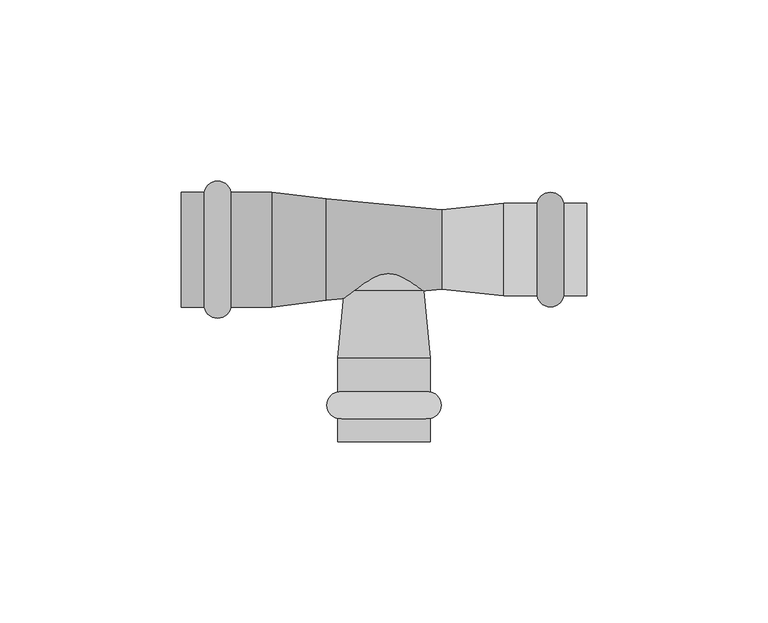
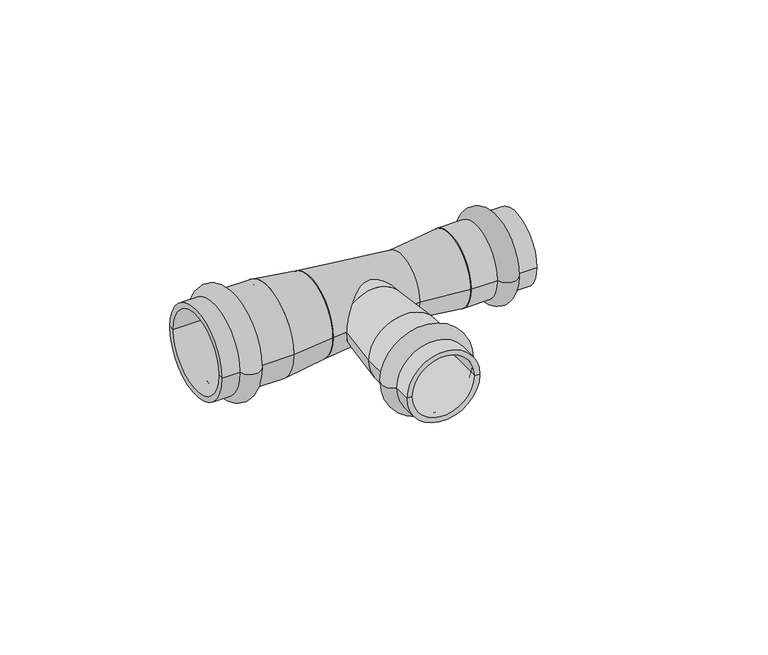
"""IFC4 building model written with IfcOpenShell, lengths in millimetres: pipe fitting geometry, VALTEC_VTi.931.I_Тройник_Ннержавеющая сталь : VTi.931.I."""

from ifc_helpers import new_model, si_unit, point, frame, origin, origin_2d, place, context, project, spatial, polyline, circle_curve, ellipse_curve, trimmed, segment, composite_curve, outline, extrude, source, transform, mapped, element, save
from ifc_brep_helpers import plane_surface, cylinder_surface, revolved_surface, advanced_brep


def pipe_fitting_aab85788(model_context):
    return source(origin(), model_context, "Body", "SolidModel", [
        advanced_brep(
        [(12.8, -46.6242346, 0.0), (-12.8, -46.6242346, 0.0), (-12.8, -39.2757654, 0.0), (12.8, -39.2757654, 0.0), (12.8, -53.0, 0.0), (-12.8, -53.0, 0.0), (11.0, -53.0, 0.0), (-11.0, -53.0, 0.0), (11.0, -30.0, 0.0), (-11.0, -30.0, 0.0), (12.8, -30.0, 0.0), (-12.8, -30.0, 0.0)],
        [
            (0, 1, circle_curve(frame((0.0, -46.6242346, 0.0), z_axis=(0.0, 1.0, 0.0), x_axis=(-1.0, 0.0, 0.0)), 12.8)),
            (1, 2, circle_curve(frame((-12.05, -42.95, 0.0), z_axis=(0.0, 0.0, -1.0), x_axis=(0.0, 1.0, 0.0)), 3.75)),
            (2, 3, circle_curve(frame((0.0, -39.2757654, 0.0), z_axis=(0.0, -1.0, 0.0), x_axis=(-1.0, 0.0, 0.0)), 12.8)),
            (3, 0, circle_curve(frame((12.05, -42.95, 0.0), z_axis=(0.0, 0.0, -1.0), x_axis=(0.0, 1.0, 0.0)), 3.75)),
            (1, 0, circle_curve(frame((0.0, -46.6242346, 0.0), z_axis=(0.0, 1.0, 0.0), x_axis=(-1.0, 0.0, 0.0)), 12.8)),
            (3, 2, circle_curve(frame((0.0, -39.2757654, 0.0), z_axis=(0.0, -1.0, 0.0), x_axis=(-1.0, 0.0, 0.0)), 12.8)),
            (4, 5, circle_curve(frame((0.0, -53.0, 0.0), z_axis=(0.0, 1.0, 0.0), x_axis=(-1.0, 0.0, 0.0)), 12.8)),
            (5, 1),
            (0, 4),
            (5, 4, circle_curve(frame((0.0, -53.0, 0.0), z_axis=(0.0, 1.0, 0.0), x_axis=(-1.0, 0.0, 0.0)), 12.8)),
            (6, 7, circle_curve(frame((0.0, -53.0, 0.0), z_axis=(0.0, 1.0, 0.0), x_axis=(-1.0, 0.0, 0.0)), 11.0)),
            (7, 5),
            (4, 6),
            (7, 6, circle_curve(frame((0.0, -53.0, 0.0), z_axis=(0.0, 1.0, 0.0), x_axis=(-1.0, 0.0, 0.0)), 11.0)),
            (8, 9, circle_curve(frame((0.0, -30.0, 0.0), z_axis=(0.0, 1.0, 0.0), x_axis=(-1.0, 0.0, 0.0)), 11.0)),
            (9, 7),
            (6, 8),
            (9, 8, circle_curve(frame((0.0, -30.0, 0.0), z_axis=(0.0, 1.0, 0.0), x_axis=(-1.0, 0.0, 0.0)), 11.0)),
            (10, 11, circle_curve(frame((0.0, -30.0, 0.0), z_axis=(0.0, 1.0, 0.0), x_axis=(-1.0, 0.0, 0.0)), 12.8)),
            (11, 9),
            (8, 10),
            (11, 10, circle_curve(frame((0.0, -30.0, 0.0), z_axis=(0.0, 1.0, 0.0), x_axis=(-1.0, 0.0, 0.0)), 12.8)),
            (2, 11),
            (10, 3),
        ],
        [
            revolved_surface(trimmed(ellipse_curve(frame((-12.05, -42.95, 0.0), z_axis=(0.0, 0.0, 1.0), x_axis=(0.0, 1.0, 0.0)), 3.75, 3.75), [point((-12.8, -39.2757654, 0.0))], [point((-12.8, -46.6242346, 0.0))], True, "CARTESIAN"), (0.0, -56.5364426, 0.0), (0.0, -1.0, 0.0)),
            cylinder_surface(frame((0.0, -56.5364426, 0.0), z_axis=(0.0, -1.0, 0.0), x_axis=(-1.0, 0.0, 0.0)), 12.8),
            plane_surface(frame((0.0, -53.0, 0.0), z_axis=(0.0, -1.0, 0.0), x_axis=(-1.0, 0.0, 0.0))),
            revolved_surface(polyline([(-11.0, -53.0, 0.0), (-11.0, -30.0, 0.0)]), (0.0, -56.5364426, 0.0), (0.0, -1.0, 0.0)),
            plane_surface(frame((0.0, -30.0, 0.0), z_axis=(0.0, 1.0, 0.0), x_axis=(-1.0, 0.0, 0.0))),
        ],
        [
            (0, [[1, 2, 3, 4]]),
            (0, [[5, -4, 6, -2]]),
            (1, [[7, 8, -1, 9]]),
            (1, [[10, -9, -5, -8]]),
            (2, [[11, 12, -7, 13]]),
            (2, [[14, -13, -10, -12]]),
            (3, [[15, 16, -11, 17]]),
            (3, [[18, -17, -14, -16]]),
            (4, [[19, 20, -15, 21]]),
            (4, [[22, -21, -18, -20]]),
            (1, [[-3, 23, -19, 24]]),
            (1, [[-6, -24, -22, -23]]),
        ],
    ),
        advanced_brep(
        [(49.6242346, 12.8, 0.0), (49.6242346, -12.8, 0.0), (42.2757654, -12.8, 0.0), (42.2757654, 12.8, 0.0), (56.0, 12.8, 0.0), (56.0, -12.8, 0.0), (56.0, 11.0, 0.0), (56.0, -11.0, 0.0), (33.0, 11.0, 0.0), (33.0, -11.0, 0.0), (33.0, 12.8, 0.0), (33.0, -12.8, 0.0)],
        [
            (0, 1, circle_curve(frame((49.6242346, 0.0, 0.0), z_axis=(-1.0, 0.0, 0.0), x_axis=(0.0, -1.0, 0.0)), 12.8)),
            (1, 2, circle_curve(frame((45.95, -12.05, 0.0), z_axis=(0.0, 0.0, -1.0), x_axis=(-1.0, 0.0, 0.0)), 3.75)),
            (2, 3, circle_curve(frame((42.2757654, 0.0, 0.0), z_axis=(1.0, 0.0, 0.0), x_axis=(0.0, -1.0, 0.0)), 12.8)),
            (3, 0, circle_curve(frame((45.95, 12.05, 0.0), z_axis=(0.0, 0.0, -1.0), x_axis=(-1.0, 0.0, 0.0)), 3.75)),
            (1, 0, circle_curve(frame((49.6242346, 0.0, 0.0), z_axis=(-1.0, 0.0, 0.0), x_axis=(0.0, -1.0, 0.0)), 12.8)),
            (3, 2, circle_curve(frame((42.2757654, 0.0, 0.0), z_axis=(1.0, 0.0, 0.0), x_axis=(0.0, -1.0, 0.0)), 12.8)),
            (4, 5, circle_curve(frame((56.0, 0.0, 0.0), z_axis=(-1.0, 0.0, 0.0), x_axis=(0.0, -1.0, 0.0)), 12.8)),
            (5, 1),
            (0, 4),
            (5, 4, circle_curve(frame((56.0, 0.0, 0.0), z_axis=(-1.0, 0.0, 0.0), x_axis=(0.0, -1.0, 0.0)), 12.8)),
            (6, 7, circle_curve(frame((56.0, 0.0, 0.0), z_axis=(-1.0, 0.0, 0.0), x_axis=(0.0, -1.0, 0.0)), 11.0)),
            (7, 5),
            (4, 6),
            (7, 6, circle_curve(frame((56.0, 0.0, 0.0), z_axis=(-1.0, 0.0, 0.0), x_axis=(0.0, -1.0, 0.0)), 11.0)),
            (8, 9, circle_curve(frame((33.0, 0.0, 0.0), z_axis=(-1.0, 0.0, 0.0), x_axis=(0.0, -1.0, 0.0)), 11.0)),
            (9, 7),
            (6, 8),
            (9, 8, circle_curve(frame((33.0, 0.0, 0.0), z_axis=(-1.0, 0.0, 0.0), x_axis=(0.0, -1.0, 0.0)), 11.0)),
            (10, 11, circle_curve(frame((33.0, 0.0, 0.0), z_axis=(-1.0, 0.0, 0.0), x_axis=(0.0, -1.0, 0.0)), 12.8)),
            (11, 9),
            (8, 10),
            (11, 10, circle_curve(frame((33.0, 0.0, 0.0), z_axis=(-1.0, 0.0, 0.0), x_axis=(0.0, -1.0, 0.0)), 12.8)),
            (2, 11),
            (10, 3),
        ],
        [
            revolved_surface(trimmed(ellipse_curve(frame((45.95, -12.05, 0.0), z_axis=(0.0, 0.0, 1.0), x_axis=(-1.0, 0.0, 0.0)), 3.75, 3.75), [point((42.2757654, -12.8, 0.0))], [point((49.6242346, -12.8, 0.0))], True, "CARTESIAN"), (59.5364426, 0.0, 0.0), (1.0, 0.0, 0.0)),
            cylinder_surface(frame((59.5364426, 0.0, 0.0), z_axis=(1.0, 0.0, 0.0), x_axis=(0.0, -1.0, 0.0)), 12.8),
            plane_surface(frame((56.0, 0.0, 0.0), z_axis=(1.0, 0.0, 0.0), x_axis=(0.0, -1.0, 0.0))),
            revolved_surface(polyline([(56.0, -11.0, 0.0), (33.0, -11.0, 0.0)]), (59.5364426, 0.0, 0.0), (1.0, 0.0, 0.0)),
            plane_surface(frame((33.0, 0.0, 0.0), z_axis=(-1.0, 0.0, 0.0), x_axis=(0.0, -1.0, 0.0))),
        ],
        [
            (0, [[1, 2, 3, 4]]),
            (0, [[5, -4, 6, -2]]),
            (1, [[7, 8, -1, 9]]),
            (1, [[10, -9, -5, -8]]),
            (2, [[11, 12, -7, 13]]),
            (2, [[14, -13, -10, -12]]),
            (3, [[15, 16, -11, 17]]),
            (3, [[18, -17, -14, -16]]),
            (4, [[19, 20, -15, 21]]),
            (4, [[22, -21, -18, -20]]),
            (1, [[-3, 23, -19, 24]]),
            (1, [[-6, -24, -22, -23]]),
        ],
    ),
        advanced_brep(
        [(-49.6242346, -15.9, 0.0), (-49.6242346, 15.9, 0.0), (-42.2757654, 15.9, 0.0), (-42.2757654, -15.9, 0.0), (-56.0, -15.9, 0.0), (-56.0, 15.9, 0.0), (-56.0, -14.0, 0.0), (-56.0, 14.0, 0.0), (-31.0, -14.0, 0.0), (-31.0, 14.0, 0.0), (-31.0, -15.9, 0.0), (-31.0, 15.9, 0.0)],
        [
            (0, 1, circle_curve(frame((-49.6242346, 0.0, 0.0), z_axis=(1.0, 0.0, 0.0), x_axis=(0.0, 1.0, 0.0)), 15.9)),
            (1, 2, circle_curve(frame((-45.95, 15.15, 0.0), z_axis=(0.0, 0.0, -1.0), x_axis=(1.0, 0.0, 0.0)), 3.75)),
            (2, 3, circle_curve(frame((-42.2757654, 0.0, 0.0), z_axis=(-1.0, 0.0, 0.0), x_axis=(0.0, 1.0, 0.0)), 15.9)),
            (3, 0, circle_curve(frame((-45.95, -15.15, 0.0), z_axis=(0.0, 0.0, -1.0), x_axis=(1.0, 0.0, 0.0)), 3.75)),
            (1, 0, circle_curve(frame((-49.6242346, 0.0, 0.0), z_axis=(1.0, 0.0, 0.0), x_axis=(0.0, 1.0, 0.0)), 15.9)),
            (3, 2, circle_curve(frame((-42.2757654, 0.0, 0.0), z_axis=(-1.0, 0.0, 0.0), x_axis=(0.0, 1.0, 0.0)), 15.9)),
            (4, 5, circle_curve(frame((-56.0, 0.0, 0.0), z_axis=(1.0, 0.0, 0.0), x_axis=(0.0, 1.0, 0.0)), 15.9)),
            (5, 1),
            (0, 4),
            (5, 4, circle_curve(frame((-56.0, 0.0, 0.0), z_axis=(1.0, 0.0, 0.0), x_axis=(0.0, 1.0, 0.0)), 15.9)),
            (6, 7, circle_curve(frame((-56.0, 0.0, 0.0), z_axis=(1.0, 0.0, 0.0), x_axis=(0.0, 1.0, 0.0)), 14.0)),
            (7, 5),
            (4, 6),
            (7, 6, circle_curve(frame((-56.0, 0.0, 0.0), z_axis=(1.0, 0.0, 0.0), x_axis=(0.0, 1.0, 0.0)), 14.0)),
            (8, 9, circle_curve(frame((-31.0, 0.0, 0.0), z_axis=(1.0, 0.0, 0.0), x_axis=(0.0, 1.0, 0.0)), 14.0)),
            (9, 7),
            (6, 8),
            (9, 8, circle_curve(frame((-31.0, 0.0, 0.0), z_axis=(1.0, 0.0, 0.0), x_axis=(0.0, 1.0, 0.0)), 14.0)),
            (10, 11, circle_curve(frame((-31.0, 0.0, 0.0), z_axis=(1.0, 0.0, 0.0), x_axis=(0.0, 1.0, 0.0)), 15.9)),
            (11, 9),
            (8, 10),
            (11, 10, circle_curve(frame((-31.0, 0.0, 0.0), z_axis=(1.0, 0.0, 0.0), x_axis=(0.0, 1.0, 0.0)), 15.9)),
            (2, 11),
            (10, 3),
        ],
        [
            revolved_surface(trimmed(ellipse_curve(frame((-45.95, 15.15, 0.0), z_axis=(0.0, 0.0, 1.0), x_axis=(1.0, 0.0, 0.0)), 3.75, 3.75), [point((-42.2757654, 15.9, 0.0))], [point((-49.6242346, 15.9, 0.0))], True, "CARTESIAN"), (-59.5364426, 0.0, 0.0), (-1.0, 0.0, 0.0)),
            cylinder_surface(frame((-59.5364426, 0.0, 0.0), z_axis=(-1.0, 0.0, 0.0), x_axis=(0.0, 1.0, 0.0)), 15.9),
            plane_surface(frame((-56.0, 0.0, 0.0), z_axis=(-1.0, 0.0, 0.0), x_axis=(0.0, 1.0, 0.0))),
            revolved_surface(polyline([(-56.0, 14.0, 0.0), (-31.0, 14.0, 0.0)]), (-59.5364426, 0.0, 0.0), (-1.0, 0.0, 0.0)),
            plane_surface(frame((-31.0, 0.0, 0.0), z_axis=(1.0, 0.0, 0.0), x_axis=(0.0, 1.0, 0.0))),
        ],
        [
            (0, [[1, 2, 3, 4]]),
            (0, [[5, -4, 6, -2]]),
            (1, [[7, 8, -1, 9]]),
            (1, [[10, -9, -5, -8]]),
            (2, [[11, 12, -7, 13]]),
            (2, [[14, -13, -10, -12]]),
            (3, [[15, 16, -11, 17]]),
            (3, [[18, -17, -14, -16]]),
            (4, [[19, 20, -15, 21]]),
            (4, [[22, -21, -18, -20]]),
            (1, [[-3, 23, -19, 24]]),
            (1, [[-6, -24, -22, -23]]),
        ],
    ),
        advanced_brep(
        [(16.0, -11.0, 0.0), (16.0, 11.0, 0.0), (-16.0, -14.0, 0.0), (-16.0, 14.0, 0.0)],
        [
            (0, 1, circle_curve(frame((16.0, 0.0, 0.0), z_axis=(1.0, 0.0, 0.0), x_axis=(0.0, -1.0, 0.0)), 11.0)),
            (1, 0, circle_curve(frame((16.0, 0.0, 0.0), z_axis=(1.0, 0.0, 0.0), x_axis=(0.0, 1.0, 0.0)), 11.0)),
            (2, 3, circle_curve(frame((-16.0, 0.0, 0.0), z_axis=(-1.0, 0.0, 0.0), x_axis=(0.0, 1.0, 0.0)), 14.0)),
            (3, 2, circle_curve(frame((-16.0, 0.0, 0.0), z_axis=(-1.0, 0.0, 0.0), x_axis=(0.0, -1.0, 0.0)), 14.0)),
            (3, 1),
            (0, 2),
        ],
        [
            plane_surface(frame((16.0, 0.0, 0.0), z_axis=(1.0, 0.0, 0.0), x_axis=(0.0, 0.0, -1.0))),
            plane_surface(frame((-16.0, 0.0, 0.0), z_axis=(-1.0, 0.0, 0.0), x_axis=(0.0, 0.0, -1.0))),
            revolved_surface(polyline([(16.0, -10.999999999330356, 0.0), (-16.0, -14.0, 0.0)]), (133.3333333, 0.0, 0.0), (-1.0, 0.0, 0.0)),
            revolved_surface(polyline([(16.0, 10.999999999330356, 0.0), (-16.0, 14.0, 0.0)]), (133.3333333, 0.0, 0.0), (-1.0, 0.0, 0.0)),
        ],
        [
            (0, [[1, 2]]),
            (1, [[3, 4]]),
            (2, [[-4, 5, -1, 6]]),
            (3, [[-3, -6, -2, -5]]),
        ],
    ),
        advanced_brep(
        [(-12.8, -30.0, 0.0), (12.8, -30.0, 0.0), (-11.0, -11.3209826, 0.0), (11.0, -11.3209826, 0.0)],
        [
            (0, 1, circle_curve(frame((0.0, -30.0, 0.0), z_axis=(0.0, -1.0, 0.0), x_axis=(-1.0, 0.0, 0.0)), 12.8)),
            (1, 0, circle_curve(frame((0.0, -30.0, 0.0), z_axis=(0.0, -1.0, 0.0), x_axis=(1.0, 0.0, 0.0)), 12.8)),
            (2, 3, circle_curve(frame((0.0, -11.3209826, 0.0), z_axis=(0.0, 1.0, 0.0), x_axis=(1.0, 0.0, 0.0)), 11.0)),
            (3, 2, circle_curve(frame((0.0, -11.3209826, 0.0), z_axis=(0.0, 1.0, 0.0), x_axis=(-1.0, 0.0, 0.0)), 11.0)),
            (3, 1),
            (0, 2),
        ],
        [
            plane_surface(frame((0.0, -30.0, 0.0), z_axis=(0.0, -1.0, 0.0), x_axis=(0.0, 0.0, 1.0))),
            plane_surface(frame((0.0, -11.3209826, 0.0), z_axis=(0.0, 1.0, 0.0), x_axis=(0.0, 0.0, 1.0))),
            revolved_surface(polyline([(11.000000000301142, -11.320982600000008, 0.0), (12.8, -30.0, 0.0)]), (0.0, 102.8285682, 0.0), (0.0, -1.0, 0.0)),
            revolved_surface(polyline([(-11.000000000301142, -11.320982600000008, 0.0), (-12.8, -30.0, 0.0)]), (0.0, 102.8285682, 0.0), (0.0, -1.0, 0.0)),
        ],
        [
            (0, [[1, 2]]),
            (1, [[3, 4]]),
            (2, [[-4, 5, -1, 6]]),
            (3, [[-3, -6, -2, -5]]),
        ],
    ),
        extrude(outline(composite_curve([segment(trimmed(circle_curve(origin_2d(), 11.0), [point((0.0, -11.0))], [point((0.0, 11.0))], False, "CARTESIAN"), True, "CONTINUOUS"), segment(trimmed(circle_curve(origin_2d(), 11.0), [point((0.0, 11.0))], [point((0.0, -11.0))], False, "CARTESIAN"), True, "CONTINUOUS")], self_intersect=False)), frame((0.0, -11.3209826, 0.0), z_axis=(0.0, 1.0, 0.0), x_axis=(0.0, 0.0, 1.0)), (0.0, 0.0, 1.0), 11.3209826),
        advanced_brep(
        [(33.0, -12.8, 0.0), (33.0, 12.8, 0.0), (16.0, -11.0, 0.0), (16.0, 11.0, 0.0)],
        [
            (0, 1, circle_curve(frame((33.0, 0.0, 0.0), z_axis=(1.0, 0.0, 0.0), x_axis=(0.0, -1.0, 0.0)), 12.8)),
            (1, 0, circle_curve(frame((33.0, 0.0, 0.0), z_axis=(1.0, 0.0, 0.0), x_axis=(0.0, 1.0, 0.0)), 12.8)),
            (2, 3, circle_curve(frame((16.0, 0.0, 0.0), z_axis=(-1.0, 0.0, 0.0), x_axis=(0.0, 1.0, 0.0)), 11.0)),
            (3, 2, circle_curve(frame((16.0, 0.0, 0.0), z_axis=(-1.0, 0.0, 0.0), x_axis=(0.0, -1.0, 0.0)), 11.0)),
            (3, 1),
            (0, 2),
        ],
        [
            plane_surface(frame((33.0, 0.0, 0.0), z_axis=(1.0, 0.0, 0.0), x_axis=(0.0, 0.0, 1.0))),
            plane_surface(frame((16.0, 0.0, 0.0), z_axis=(-1.0, 0.0, 0.0), x_axis=(0.0, 0.0, 1.0))),
            revolved_surface(polyline([(16.0, 11.000000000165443, 0.0), (33.0, 12.8, 0.0)]), (-87.8888889, 0.0, 0.0), (1.0, 0.0, 0.0)),
            revolved_surface(polyline([(16.0, -11.000000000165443, 0.0), (33.0, -12.8, 0.0)]), (-87.8888889, 0.0, 0.0), (1.0, 0.0, 0.0)),
        ],
        [
            (0, [[1, 2]]),
            (1, [[3, 4]]),
            (2, [[-4, 5, -1, 6]]),
            (3, [[-3, -6, -2, -5]]),
        ],
    ),
        advanced_brep(
        [(-31.0, -15.9, 0.0), (-31.0, 15.9, 0.0), (-16.0, -14.0, 0.0), (-16.0, 14.0, 0.0)],
        [
            (0, 1, circle_curve(frame((-31.0, 0.0, 0.0), z_axis=(-1.0, 0.0, 0.0), x_axis=(0.0, -1.0, 0.0)), 15.9)),
            (1, 0, circle_curve(frame((-31.0, 0.0, 0.0), z_axis=(-1.0, 0.0, 0.0), x_axis=(0.0, 1.0, 0.0)), 15.9)),
            (2, 3, circle_curve(frame((-16.0, 0.0, 0.0), z_axis=(1.0, 0.0, 0.0), x_axis=(0.0, 1.0, 0.0)), 14.0)),
            (3, 2, circle_curve(frame((-16.0, 0.0, 0.0), z_axis=(1.0, 0.0, 0.0), x_axis=(0.0, -1.0, 0.0)), 14.0)),
            (2, 0),
            (1, 3),
        ],
        [
            plane_surface(frame((-31.0, 0.0, 0.0), z_axis=(-1.0, 0.0, 0.0), x_axis=(0.0, 0.0, -1.0))),
            plane_surface(frame((-16.0, 0.0, 0.0), z_axis=(1.0, 0.0, 0.0), x_axis=(0.0, 0.0, -1.0))),
            revolved_surface(polyline([(-16.0, -14.000000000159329, 0.0), (-31.0, -15.9, 0.0)]), (94.5263158, 0.0, 0.0), (-1.0, 0.0, 0.0)),
            revolved_surface(polyline([(-16.0, 14.000000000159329, 0.0), (-31.0, 15.9, 0.0)]), (94.5263158, 0.0, 0.0), (-1.0, 0.0, 0.0)),
        ],
        [
            (0, [[1, 2]]),
            (1, [[3, 4]]),
            (2, [[-3, 5, -2, 6]]),
            (3, [[-4, -6, -1, -5]]),
        ],
    ),
    ])


if __name__ == "__main__":
    model = new_model("IFC4")
    model_context = context("Model", 3, world=origin())
    ifc_project = project(units=[si_unit("LENGTHUNIT", "METRE", prefix="MILLI")], contexts=[model_context])
    site = spatial("IfcSite", under=ifc_project)
    building = spatial("IfcBuilding", under=site)
    placement = place(None, origin())
    pipe_fitting_shape = pipe_fitting_aab85788(model_context)
    element("IfcPipeFitting", 1, ObjectType="VALTEC_VTi.931.I_Тройник_Ннержавеющая сталь : VTi.931.I", at=placement, inside=building, context=model_context, shape_type="MappedRepresentation", body=[
        mapped(pipe_fitting_shape, transform((0.0, 0.0, 0.0), x_axis=(1.0, 0.0, 0.0), y_axis=(0.0, 1.0, 0.0), z_axis=(0.0, 0.0, 1.0))),
    ])
    save(model, "model.ifc")
